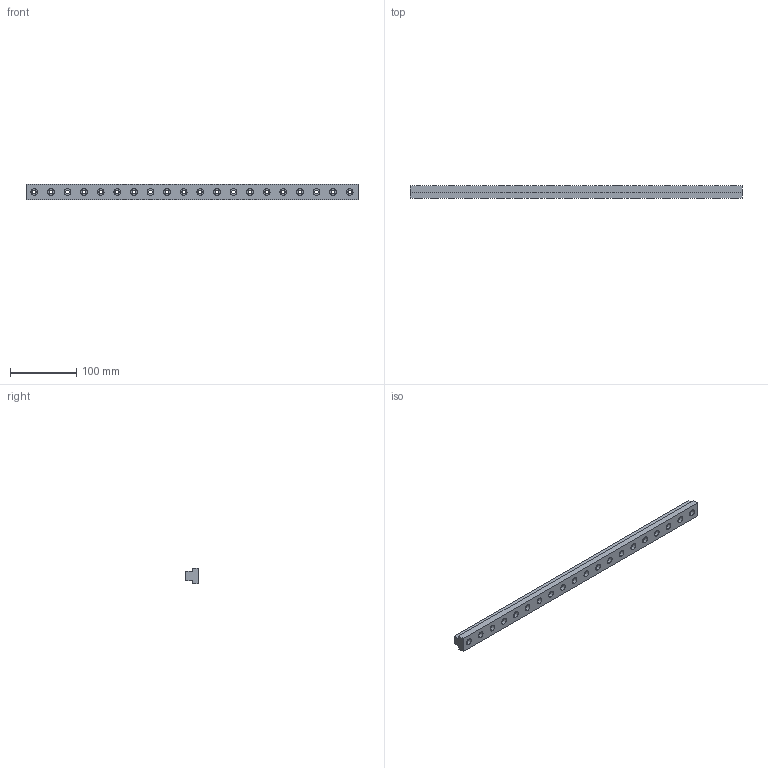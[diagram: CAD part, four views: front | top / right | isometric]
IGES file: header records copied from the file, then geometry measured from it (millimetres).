
Start section: START RECORD GO HERE.
Global section: file name: CF-GT-09-500.igs; native system: DASSAULT SYSTEMES CATIA V5 R20 - www.3ds.com; preprocessor: CATIA Version 5 Release 20 ; author: Utente; organization: NB04-ASUS; date: 20210221.171530; units: millimetre
Bounding box: 500 x 19 x 24 mm (x, y, z)
Surface area: 50939.2 mm2 (no closed solid volume)
Topology: 0 solids, 0 shells, 110 faces, 848 edges, 848 vertices
Faces by surface type: revolution 80, plane 30
